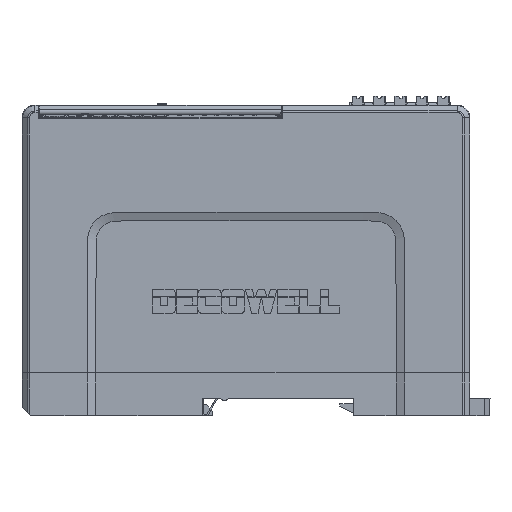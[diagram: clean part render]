
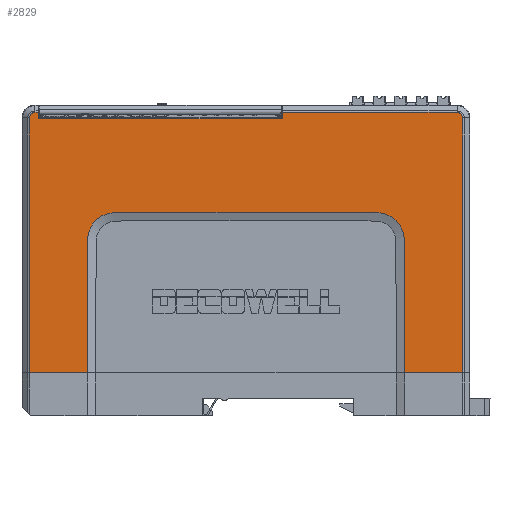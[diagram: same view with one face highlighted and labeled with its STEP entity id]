
A CAD part, left-side view. The second image highlights one B-rep face of the part: STEP entity #2829.
In plain terms, the highlighted planar face has unit normal (-1, 0, 0).
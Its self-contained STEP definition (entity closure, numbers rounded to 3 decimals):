
#898=B_SPLINE_CURVE_WITH_KNOTS('',3,(#143807,#143808,#143809,#143810,#143811,
#143812,#143813,#143814,#143815,#143816,#143817,#143818,#143819,#143820,
#143821,#143822,#143823,#143824,#143825,#143826,#143827,#143828,#143829,
#143830,#143831,#143832,#143833,#143834,#143835,#143836,#143837,#143838,
#143839,#143840,#143841,#143842,#143843,#143844,#143845,#143846,#143847,
#143848,#143849,#143850,#143851,#143852,#143853,#143854,#143855,#143856,
#143857,#143858),.UNSPECIFIED.,.F.,.F.,(4,1,1,1,2,2,2,2,2,2,2,2,2,1,1,1,
1,1,1,2,2,2,2,2,2,2,2,2,1,1,1,4),(0.,0.246,0.25,
0.254,0.258,0.266,0.274,
0.278,0.282,0.287,0.291,
0.299,0.307,0.311,0.315,
0.319,0.681,0.685,0.689,
0.693,0.701,0.709,0.713,
0.718,0.722,0.726,0.734,
0.742,0.746,0.75,0.754,
1.),.UNSPECIFIED.);
#2829=ADVANCED_FACE('',(#12839),#8232,.F.);
#8232=PLANE('',#106878);
#12839=FACE_OUTER_BOUND('',#18297,.T.);
#18297=EDGE_LOOP('',(#27141,#27142,#27143,#27144,#27145,#27146,#27147,#27148,
#27149,#27150,#27151,#27152));
#23854=CIRCLE('',#106731,1.293);
#23856=CIRCLE('',#106734,1.293);
#27141=ORIENTED_EDGE('',*,*,#66155,.T.);
#27142=ORIENTED_EDGE('',*,*,#65595,.F.);
#27143=ORIENTED_EDGE('',*,*,#65572,.F.);
#27144=ORIENTED_EDGE('',*,*,#65997,.T.);
#27145=ORIENTED_EDGE('',*,*,#65969,.T.);
#27146=ORIENTED_EDGE('',*,*,#66504,.T.);
#27147=ORIENTED_EDGE('',*,*,#66510,.F.);
#27148=ORIENTED_EDGE('',*,*,#66507,.T.);
#27149=ORIENTED_EDGE('',*,*,#66511,.F.);
#27150=ORIENTED_EDGE('',*,*,#66512,.T.);
#27151=ORIENTED_EDGE('',*,*,#65971,.T.);
#27152=ORIENTED_EDGE('',*,*,#66168,.T.);
#55488=VERTEX_POINT('',#141752);
#55489=VERTEX_POINT('',#141753);
#55508=VERTEX_POINT('',#141797);
#55764=VERTEX_POINT('',#142571);
#55765=VERTEX_POINT('',#142573);
#55766=VERTEX_POINT('',#142577);
#55767=VERTEX_POINT('',#142578);
#55890=VERTEX_POINT('',#143054);
#56192=VERTEX_POINT('',#143748);
#56195=VERTEX_POINT('',#143859);
#56196=VERTEX_POINT('',#143860);
#56197=VERTEX_POINT('',#143987);
#65572=EDGE_CURVE('',#55488,#55489,#80602,.T.);
#65595=EDGE_CURVE('',#55489,#55508,#80621,.T.);
#65969=EDGE_CURVE('',#55765,#55764,#23854,.T.);
#65971=EDGE_CURVE('',#55766,#55767,#23856,.T.);
#65997=EDGE_CURVE('',#55488,#55765,#80961,.T.);
#66155=EDGE_CURVE('',#55890,#55508,#81111,.T.);
#66168=EDGE_CURVE('',#55767,#55890,#81119,.T.);
#66504=EDGE_CURVE('',#55764,#56192,#81451,.T.);
#66507=EDGE_CURVE('',#56195,#56196,#898,.T.);
#66510=EDGE_CURVE('',#56195,#56192,#81453,.T.);
#66511=EDGE_CURVE('',#56197,#56196,#81454,.T.);
#66512=EDGE_CURVE('',#56197,#55766,#81455,.T.);
#80602=LINE('',#141751,#93576);
#80621=LINE('',#141800,#93595);
#80961=LINE('',#142684,#93935);
#81111=LINE('',#143053,#94086);
#81119=LINE('',#143077,#94094);
#81451=LINE('',#143749,#94426);
#81453=LINE('',#143985,#94428);
#81454=LINE('',#143986,#94429);
#81455=LINE('',#143988,#94430);
#93576=VECTOR('',#113907,1.);
#93595=VECTOR('',#113942,1.);
#93935=VECTOR('',#114706,1.);
#94086=VECTOR('',#114981,1.);
#94094=VECTOR('',#115007,1.);
#94426=VECTOR('',#115427,1.);
#94428=VECTOR('',#115433,1.);
#94429=VECTOR('',#115434,1.);
#94430=VECTOR('',#115435,1.);
#106731=AXIS2_PLACEMENT_3D('',#142572,#114641,#114642);
#106734=AXIS2_PLACEMENT_3D('',#142576,#114647,#114648);
#106878=AXIS2_PLACEMENT_3D('',#143989,#115436,#115437);
#113907=DIRECTION('',(0.,0.,-1.));
#113942=DIRECTION('',(0.,-1.,0.));
#114641=DIRECTION('',(-1.,0.,0.));
#114642=DIRECTION('',(0.,0.,-1.));
#114647=DIRECTION('',(-1.,0.,0.));
#114648=DIRECTION('',(0.,0.,-1.));
#114706=DIRECTION('',(0.,1.,0.));
#114981=DIRECTION('',(0.,0.,-1.));
#115007=DIRECTION('',(0.,1.,0.));
#115427=DIRECTION('',(0.,0.,-1.));
#115433=DIRECTION('',(0.,1.,0.));
#115434=DIRECTION('',(0.,1.,0.));
#115435=DIRECTION('',(0.,0.,1.));
#115436=DIRECTION('',(1.,0.,0.));
#115437=DIRECTION('',(0.,0.,-1.));
#141751=CARTESIAN_POINT('',(-345.489,61.328,23.2));
#141752=CARTESIAN_POINT('',(-345.489,61.328,35.818));
#141753=CARTESIAN_POINT('',(-345.489,61.328,34.375));
#141797=CARTESIAN_POINT('',(-345.489,4.213,34.375));
#141800=CARTESIAN_POINT('',(-345.489,61.328,34.375));
#142571=CARTESIAN_POINT('',(-345.489,63.503,34.525));
#142572=CARTESIAN_POINT('',(-345.489,62.21,34.525));
#142573=CARTESIAN_POINT('',(-345.489,62.21,35.818));
#142576=CARTESIAN_POINT('',(-345.489,-36.79,34.525));
#142577=CARTESIAN_POINT('',(-345.489,-38.083,34.525));
#142578=CARTESIAN_POINT('',(-345.489,-36.79,35.818));
#142684=CARTESIAN_POINT('',(-345.489,62.21,35.818));
#143053=CARTESIAN_POINT('',(-345.489,4.213,37.525));
#143054=CARTESIAN_POINT('',(-345.489,4.213,35.818));
#143077=CARTESIAN_POINT('',(-345.489,4.213,35.818));
#143748=CARTESIAN_POINT('',(-345.489,63.503,-25.225));
#143749=CARTESIAN_POINT('',(-345.489,63.503,-25.225));
#143807=CARTESIAN_POINT('',(-345.489,49.901,-35.225));
#143808=CARTESIAN_POINT('',(-345.489,49.902,-22.086));
#143809=CARTESIAN_POINT('',(-345.489,49.899,-8.696));
#143810=CARTESIAN_POINT('',(-345.489,49.904,4.851));
#143811=CARTESIAN_POINT('',(-345.489,49.888,5.64));
#143812=CARTESIAN_POINT('',(-345.489,49.841,6.138));
#143813=CARTESIAN_POINT('',(-345.489,49.745,6.894));
#143814=CARTESIAN_POINT('',(-345.489,49.644,7.392));
#143815=CARTESIAN_POINT('',(-345.489,49.348,8.363));
#143816=CARTESIAN_POINT('',(-345.489,49.152,8.834));
#143817=CARTESIAN_POINT('',(-345.489,48.774,9.494));
#143818=CARTESIAN_POINT('',(-345.489,48.634,9.706));
#143819=CARTESIAN_POINT('',(-345.489,48.327,10.11));
#143820=CARTESIAN_POINT('',(-345.489,48.16,10.302));
#143821=CARTESIAN_POINT('',(-345.489,47.802,10.661));
#143822=CARTESIAN_POINT('',(-345.489,47.61,10.828));
#143823=CARTESIAN_POINT('',(-345.489,47.206,11.134));
#143824=CARTESIAN_POINT('',(-345.489,46.994,11.274));
#143825=CARTESIAN_POINT('',(-345.489,46.333,11.652));
#143826=CARTESIAN_POINT('',(-345.489,45.862,11.848));
#143827=CARTESIAN_POINT('',(-345.489,44.892,12.145));
#143828=CARTESIAN_POINT('',(-345.489,44.393,12.246));
#143829=CARTESIAN_POINT('',(-345.489,43.637,12.342));
#143830=CARTESIAN_POINT('',(-345.489,43.14,12.389));
#143831=CARTESIAN_POINT('',(-345.489,42.35,12.404));
#143832=CARTESIAN_POINT('',(-345.489,22.622,12.4));
#143833=CARTESIAN_POINT('',(-345.489,2.798,12.4));
#143834=CARTESIAN_POINT('',(-345.489,-16.93,12.404));
#143835=CARTESIAN_POINT('',(-345.489,-17.719,12.389));
#143836=CARTESIAN_POINT('',(-345.489,-18.217,12.342));
#143837=CARTESIAN_POINT('',(-345.489,-18.973,12.246));
#143838=CARTESIAN_POINT('',(-345.489,-19.472,12.145));
#143839=CARTESIAN_POINT('',(-345.489,-20.442,11.848));
#143840=CARTESIAN_POINT('',(-345.489,-20.913,11.652));
#143841=CARTESIAN_POINT('',(-345.489,-21.573,11.274));
#143842=CARTESIAN_POINT('',(-345.489,-21.786,11.134));
#143843=CARTESIAN_POINT('',(-345.489,-22.19,10.828));
#143844=CARTESIAN_POINT('',(-345.489,-22.381,10.661));
#143845=CARTESIAN_POINT('',(-345.489,-22.74,10.302));
#143846=CARTESIAN_POINT('',(-345.489,-22.907,10.11));
#143847=CARTESIAN_POINT('',(-345.489,-23.214,9.706));
#143848=CARTESIAN_POINT('',(-345.489,-23.353,9.494));
#143849=CARTESIAN_POINT('',(-345.489,-23.731,8.834));
#143850=CARTESIAN_POINT('',(-345.489,-23.928,8.363));
#143851=CARTESIAN_POINT('',(-345.489,-24.224,7.392));
#143852=CARTESIAN_POINT('',(-345.489,-24.325,6.894));
#143853=CARTESIAN_POINT('',(-345.489,-24.421,6.138));
#143854=CARTESIAN_POINT('',(-345.489,-24.468,5.64));
#143855=CARTESIAN_POINT('',(-345.489,-24.483,4.851));
#143856=CARTESIAN_POINT('',(-345.489,-24.479,-8.696));
#143857=CARTESIAN_POINT('',(-345.489,-24.481,-22.086));
#143858=CARTESIAN_POINT('',(-345.489,-24.481,-35.225));
#143859=CARTESIAN_POINT('',(-345.489,49.901,-25.225));
#143860=CARTESIAN_POINT('',(-345.489,-24.481,-25.225));
#143985=CARTESIAN_POINT('',(-345.489,-34.165,-25.225));
#143986=CARTESIAN_POINT('',(-345.489,-34.165,-25.225));
#143987=CARTESIAN_POINT('',(-345.489,-38.083,-25.225));
#143988=CARTESIAN_POINT('',(-345.489,-38.083,34.525));
#143989=CARTESIAN_POINT('',(-345.489,-34.165,-22.4));
